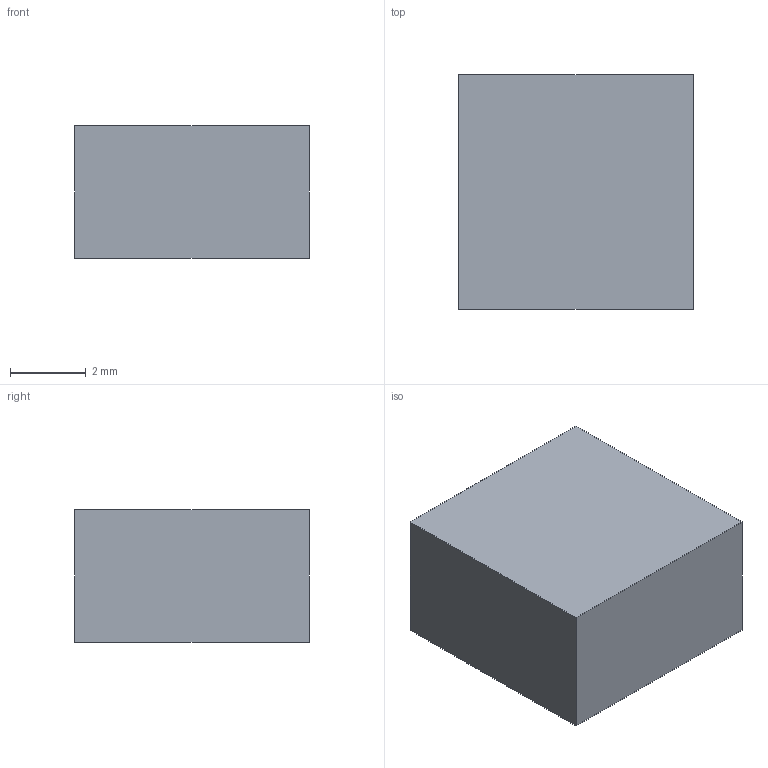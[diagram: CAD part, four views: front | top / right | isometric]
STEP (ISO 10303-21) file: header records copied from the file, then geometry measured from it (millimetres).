
FILE_DESCRIPTION(('Open CASCADE Model'),'2;1');
FILE_NAME('Open CASCADE Shape Model','2026-08-28T00:57:55',('Author'),( 'Open CASCADE'),'Open CASCADE STEP processor 7.8','Open CASCADE 7.8' ,'Unknown');
FILE_SCHEMA(('AUTOMOTIVE_DESIGN { 1 0 10303 214 1 1 1 1 }'));
Length unit declared in the file: millimetre
Products named in the file (1): Open CASCADE STEP translator 7.8 12
Bounding box: 6.2 x 6.2 x 3.5 mm (x, y, z)
Volume: 134.5 mm3; surface area: 163.7 mm2
Topology: 1 solids, 1 shells, 6 faces, 12 edges, 8 vertices
Faces by surface type: plane 6
Entity records: 322 total; most frequent: CARTESIAN_POINT 51, DIRECTION 50, LINE 36, VECTOR 36, ORIENTED_EDGE 24, PCURVE 24, DEFINITIONAL_REPRESENTATION 24, EDGE_CURVE 12
